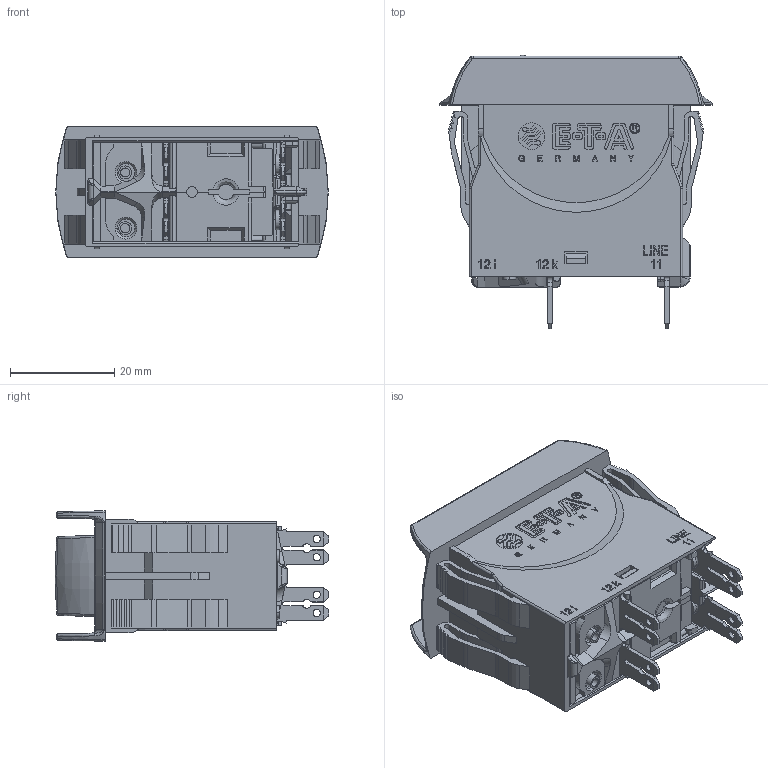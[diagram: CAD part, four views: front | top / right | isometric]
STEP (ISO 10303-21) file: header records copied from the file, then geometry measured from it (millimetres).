
FILE_DESCRIPTION((''),'2;1');
FILE_NAME('DUMMY-3120-N523-P7','2019-08-06T12:33:34',('wschmidt'),(''),'CREO PARAMETRIC BY PTC INC, 2017260','CREO PARAMETRIC BY PTC INC, 2017260','');
FILE_SCHEMA(('AUTOMOTIVE_DESIGN { 1 0 10303 214 1 1 1 1 }'));
Products named in the file (1): DUMMY-3120-N523-P7
Bounding box: 52.4 x 52.56 x 25.07 mm (x, y, z)
Volume: 30734.9 mm3; surface area: 19887.6 mm2
Topology: 1 solids, 2 shells, 1901 faces, 5214 edges, 3395 vertices
Faces by surface type: plane 1126, cylinder 318, extrusion 306, bspline 94, torus 40, cone 13, sphere 4
Entity records: 69434 total; most frequent: CARTESIAN_POINT 22709, ORIENTED_EDGE 10426, DIRECTION 7994, EDGE_CURVE 5213, VECTOR 3916, LINE 3610, VERTEX_POINT 3395, AXIS2_PLACEMENT_3D 2039
